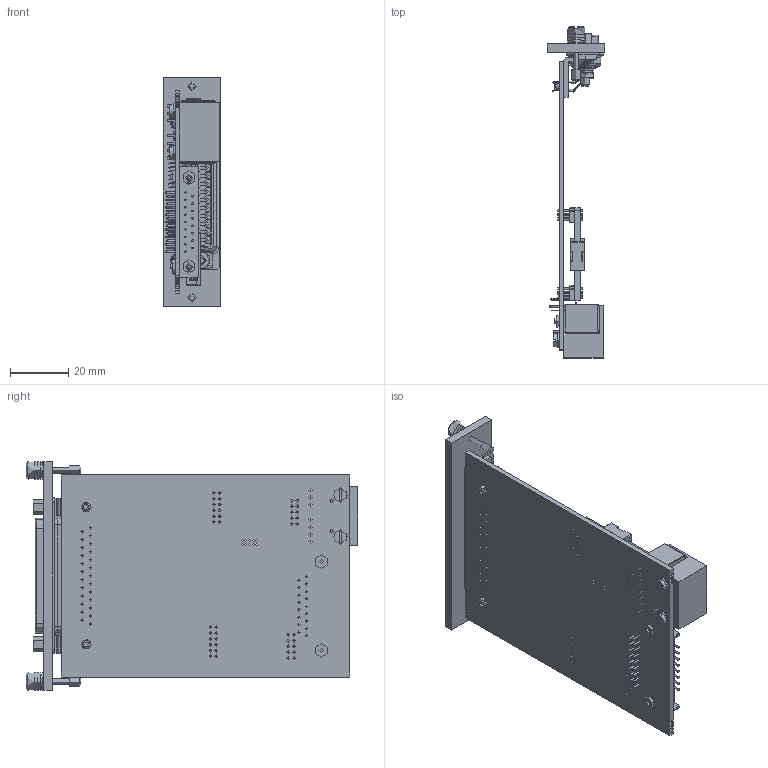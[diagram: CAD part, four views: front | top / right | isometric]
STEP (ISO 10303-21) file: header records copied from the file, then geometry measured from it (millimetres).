
FILE_DESCRIPTION(('STEP AP203'), '1');
FILE_NAME('帎迗.468155.015 沓劌錪 眝3_氈柉310', '', ('UNSPECIFIED'), ('UNSPECIFIED'), 'C3D Converter', 'C3D Toolkit', '');
FILE_SCHEMA(('CONFIG_CONTROL_DESIGN'));
Length unit declared in the file: millimetre
Products named in the file (1): КМНТ.468155.015
Bounding box: 19.6 x 113.82 x 78.5 mm (x, y, z)
Topology: 4 solids, 9 shells, 5075 faces, 13485 edges, 8657 vertices
Faces by surface type: plane 3465, cylinder 1065, extrusion 232, cone 112, torus 61, revolution 54, bspline 50, sphere 36
Full cylindrical faces by diameter (mm): 0.57 x25, 0.6 x43, 0.7 x10, 0.8 x17, 0.97 x50, 1 x155, 1.1 x7, 1.4 x2, 1.6 x2, 2 x2, 2.1 x27, 2.362 x2, 2.459 x2, 2.49 x2, 3 x4, 3.175 x4, 3.2 x6, 4.5 x6, 5 x4, 5.5 x2, 6 x8
Entity records: 217063 total; most frequent: CARTESIAN_POINT 52118, ORIENTED_EDGE 25720, DIRECTION 24317, EDGE_CURVE 12860, VECTOR 9811, LINE 9579, VERTEX_POINT 8669, AXIS2_PLACEMENT_3D 7226
